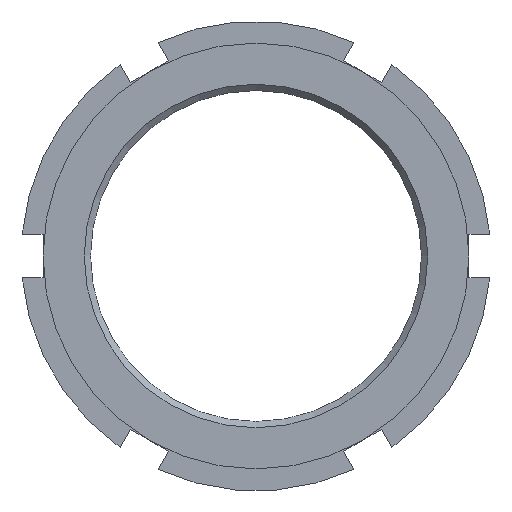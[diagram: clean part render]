
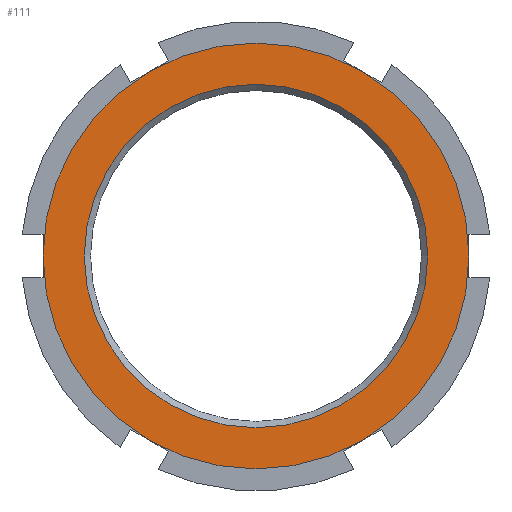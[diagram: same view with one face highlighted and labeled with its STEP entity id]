
A CAD part, left-side view. The second image highlights one B-rep face of the part: STEP entity #111.
In plain terms, the highlighted planar face has unit normal (-1, 0, 0).
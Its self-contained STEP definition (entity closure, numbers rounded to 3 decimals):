
#111 = ADVANCED_FACE( '', ( #203, #204 ), #205, .F. );
#203 = FACE_OUTER_BOUND( '', #305, .T. );
#204 = FACE_BOUND( '', #306, .T. );
#205 = PLANE( '', #307 );
#305 = EDGE_LOOP( '', ( #596 ) );
#306 = EDGE_LOOP( '', ( #597 ) );
#307 = AXIS2_PLACEMENT_3D( '', #598, #599, #600 );
#596 = ORIENTED_EDGE( '', *, *, #753, .F. );
#597 = ORIENTED_EDGE( '', *, *, #729, .T. );
#598 = CARTESIAN_POINT( '', ( 0., 0., 0. ) );
#599 = DIRECTION( '', ( 1., 0., 0. ) );
#600 = DIRECTION( '', ( 0., 0., -1. ) );
#729 = EDGE_CURVE( '', #884, #884, #885, .T. );
#753 = EDGE_CURVE( '', #916, #916, #917, .T. );
#884 = VERTEX_POINT( '', #1145 );
#885 = CIRCLE( '', #1146, 27.418 );
#916 = VERTEX_POINT( '', #1188 );
#917 = CIRCLE( '', #1189, 34. );
#1145 = CARTESIAN_POINT( '', ( 0., 0., -27.418 ) );
#1146 = AXIS2_PLACEMENT_3D( '', #1310, #1311, #1312 );
#1188 = CARTESIAN_POINT( '', ( 0., 0., -34. ) );
#1189 = AXIS2_PLACEMENT_3D( '', #1369, #1370, #1371 );
#1310 = CARTESIAN_POINT( '', ( 0., 0., 0. ) );
#1311 = DIRECTION( '', ( 1., 0., 0. ) );
#1312 = DIRECTION( '', ( 0., 0., -1. ) );
#1369 = CARTESIAN_POINT( '', ( 0., 0., 0. ) );
#1370 = DIRECTION( '', ( 1., 0., 0. ) );
#1371 = DIRECTION( '', ( 0., 0., -1. ) );
